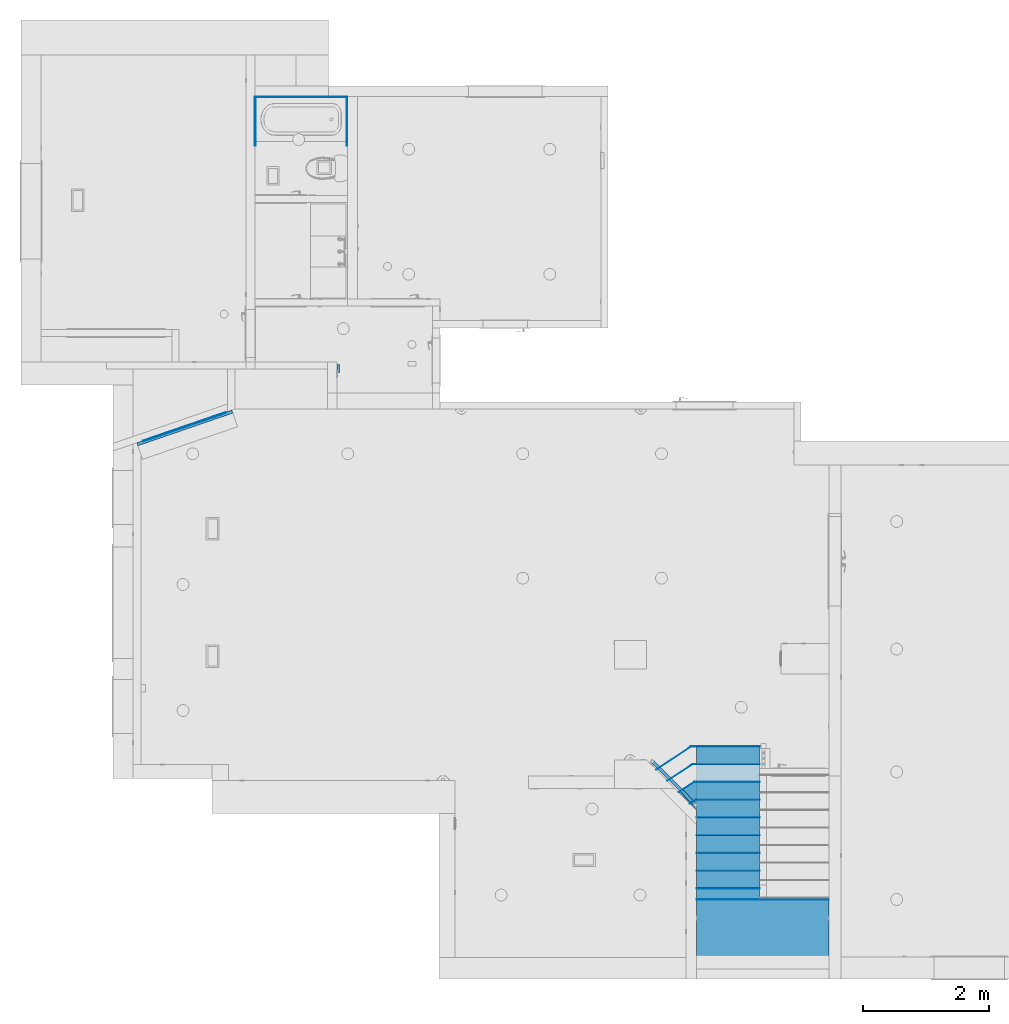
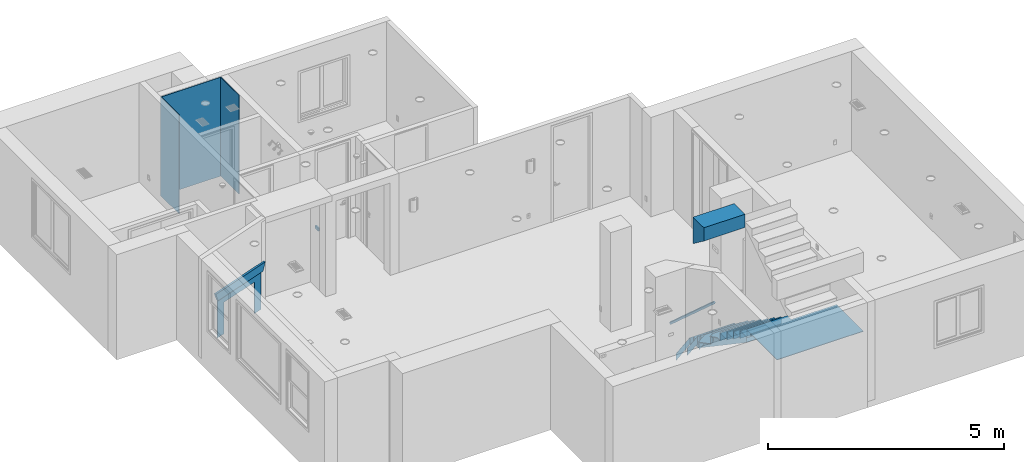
# One storey, part 1 of 48: 19 building element parts, 7 beams, 3 elements without a shape of their own.
"""IFC2X3 building model written with IfcOpenShell, lengths in inches."""

from ifc_helpers import new_model, entity, si_unit, converted_unit, derived_unit, money_unit, direction, frame, origin_with_axes, place, context, subcontext, project, spatial, faceted_brep, material, type_object, element, aggregate, save


model = new_model("IFC2X3")

# Units and contexts
model_context = context("Model", 3, precision=0.00039370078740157, world=origin_with_axes(), true_north=direction((0.0, 1.0)))
plan_context = context("Plan", 3, precision=0.00039370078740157, world=origin_with_axes(), true_north=direction((0.0, 1.0)))
body_context = subcontext(model_context, "Body", "Model", "MODEL_VIEW")
ifc_project = project(units=[converted_unit("LENGTHUNIT", "INCH", entity("IfcPositiveLengthMeasure", 0.0254), si_unit("LENGTHUNIT", "METRE"), dimensions=[1, 0, 0, 0, 0, 0, 0]), converted_unit("AREAUNIT", "SQUARE_FOOT", entity("IfcPositiveLengthMeasure", 0.09290304), si_unit("AREAUNIT", "SQUARE_METRE"), dimensions=[2, 0, 0, 0, 0, 0, 0]), si_unit("PLANEANGLEUNIT", "RADIAN"), si_unit("SOLIDANGLEUNIT", "STERADIAN"), money_unit("USD"), converted_unit("TIMEUNIT", "Year", entity("IfcTimeMeasure", 31557600.0), si_unit("TIMEUNIT", "SECOND"), dimensions=[0, 0, 1, 0, 0, 0, 0]), si_unit("MASSUNIT", "GRAM", prefix="KILO"), si_unit("THERMODYNAMICTEMPERATUREUNIT", "DEGREE_CELSIUS"), si_unit("LUMINOUSINTENSITYUNIT", "LUMEN"), si_unit("ENERGYUNIT", "JOULE", prefix="MEGA"), derived_unit("SPECIFICHEATCAPACITYUNIT", [(si_unit("ENERGYUNIT", "JOULE"), 1), (si_unit("MASSUNIT", "GRAM", prefix="KILO"), -1), (si_unit("THERMODYNAMICTEMPERATUREUNIT", "KELVIN"), -1)])], contexts=[model_context, plan_context])

# Site, building, storey
site_placement = place(None, origin_with_axes())
site = spatial("IfcSite", under=ifc_project, at=site_placement, Name="Site", CompositionType="ELEMENT")
building_placement = place(site_placement, origin_with_axes())
building = spatial("IfcBuilding", under=site, at=building_placement, Name="Building", CompositionType="ELEMENT")
storey_placement = place(building_placement, origin_with_axes())
storey = spatial("IfcBuildingStorey", under=building, at=storey_placement, Name="First Floor", CompositionType="ELEMENT", Elevation=0.0)

# Beams
ifc_material_1 = material(Name="Generic - Structural")
beam_type_1 = type_object("IfcBeamType", Name="Generic - Structural 1 1/2\" x 3\"", PredefinedType="BEAM")
beam_1_placement = place(storey_placement, frame((-63.99999999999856, 380.4937083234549, 50.49904259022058), z_axis=(0.0, 0.0, 1.0), x_axis=(1.0, 0.0, 0.0)))
element("IfcBeam", 1, at=beam_1_placement, inside=storey, type_object=beam_type_1, material=ifc_material_1, Name="BMR - 012", context=body_context, shape_type="Brep", body=[
    faceted_brep([(0.0, 0.0, 0.0), (0.0, 4.999999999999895, 0.0), (1.499999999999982, 4.999999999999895, 0.0), (1.499999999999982, 0.0, 0.0), (0.0, 0.0, 3.000026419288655), (0.0, 4.999999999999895, 3.000026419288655), (1.499999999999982, 4.999999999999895, 3.000026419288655), (1.499999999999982, 0.0, 3.000026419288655)], [[[0, 1, 2, 3]], [[4, 5, 1, 0]], [[2, 1, 5, 6]], [[3, 2, 6, 7]], [[4, 0, 3, 7]], [[7, 6, 5, 4]]]),
])
beam_type_2 = type_object("IfcBeamType", Name="Generic - Structural 1/2\" x 39\"", PredefinedType="BEAM")
beam_2_placement = place(storey_placement, frame((-133.6741574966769, 355.5495188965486, 10.99999999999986), z_axis=(0.0, 0.0, 1.0), x_axis=(-0.3250801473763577, 0.9456864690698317, 0.0)))
element("IfcBeam", 2, at=beam_2_placement, inside=storey, type_object=beam_type_2, material=ifc_material_1, Name="BMR - 113", context=body_context, shape_type="Brep", body=[
    faceted_brep([(-0.4999999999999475, 54.99999992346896, 0.0), (-0.4999999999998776, 46.99999946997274, 0.0), (-0.4999999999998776, 46.99999946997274, 31.99999999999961), (-0.4999999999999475, 7.999999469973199, 31.99999999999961), (-0.5000000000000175, 7.999999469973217, 0.0), (-0.4999999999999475, 0.0, 0.0), (-0.4999999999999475, 0.0, 38.99999999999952), (-0.4999999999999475, 54.99999992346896, 38.99999999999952), (0.0, 54.99999992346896, 0.0), (0.0, 46.99999946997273, 0.0), (0.0, 46.99999946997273, 31.99999999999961), (0.0, 7.999999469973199, 31.99999999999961), (0.0, 7.999999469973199, 0.0), (0.0, 0.0, 0.0), (0.0, 0.0, 38.99999999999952), (0.0, 54.99999992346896, 38.99999999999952)], [[[0, 1, 2, 3, 4, 5, 6, 7]], [[8, 9, 1, 0]], [[10, 2, 1, 9]], [[11, 3, 2, 10]], [[12, 4, 3, 11]], [[5, 4, 12, 13]], [[14, 6, 5, 13]], [[6, 14, 15, 7]], [[15, 8, 0, 7]], [[11, 10, 9, 8, 15, 14, 13, 12]]]),
])
beam_type_3 = type_object("IfcBeamType", Name="stairs floor 18\" x 27\"", PredefinedType="BEAM")
beam_3_placement = place(storey_placement, frame((161.4999999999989, 146.4999999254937, 100.9999999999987), z_axis=(0.0, 0.0, 1.0), x_axis=(0.0, -1.0, 0.0)))
element("IfcBeam", 3, at=beam_3_placement, inside=storey, type_object=beam_type_3, material=ifc_material_1, Name="BMR - 042", context=body_context, shape_type="Brep", body=[
    faceted_brep([(0.0, 0.0, 0.0), (0.0, 39.49660303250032, 0.0), (17.99999999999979, 39.49660303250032, 13.49999999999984), (17.99999999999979, 0.0, 13.49999999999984), (0.0, 0.0, 26.99999999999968), (0.0, 39.49660303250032, 26.99999999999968), (17.99999999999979, 39.49660303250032, 26.99999999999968), (17.99999999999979, 0.0, 26.99999999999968)], [[[0, 1, 2, 3]], [[4, 5, 1, 0]], [[2, 1, 5, 6]], [[3, 2, 6, 7]], [[4, 0, 3, 7]], [[7, 6, 5, 4]]]),
])
ifc_material_2 = material(Name="Tile - Walls")
beam_type_4 = type_object("IfcBeamType", Name="Tile - Walls 1/2\" x 100 1/2\"", PredefinedType="BEAM")
beam_4_placement = place(storey_placement, frame((-57.49977817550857, 522.5000000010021, 0.0), z_axis=(0.0, 0.0, 1.0), x_axis=(0.9999999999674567, -8.067623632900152e-06, 0.0)))
element("IfcBeam", 4, at=beam_4_placement, inside=storey, type_object=beam_type_4, material=ifc_material_2, Name="BMR - 005", context=body_context, shape_type="Brep", body=[
    faceted_brep([(0.0, 0.0, 0.0), (-0.5000000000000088, 0.0, 0.0), (-0.5, 30.49999596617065, 0.0), (0.0, 30.99999999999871, 0.0), (0.0, 0.0, 100.4999999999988), (-0.5000000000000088, 0.0, 100.4999999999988), (-0.5000000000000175, 30.49999596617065, 100.4999999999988), (0.0, 30.99999999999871, 100.4999999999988)], [[[0, 1, 2, 3]], [[4, 5, 1, 0]], [[1, 5, 6, 2]], [[7, 3, 2, 6]], [[4, 0, 3, 7]], [[5, 4, 7, 6]]]),
])
beam_5_placement = place(storey_placement, frame((-115.4999999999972, 553.499999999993, 0.0), z_axis=(0.0, 0.0, 1.0), x_axis=(-1.0, 0.0, 0.0)))
element("IfcBeam", 5, at=beam_5_placement, inside=storey, type_object=beam_type_4, material=ifc_material_2, Name="BMR - 007", context=body_context, shape_type="Brep", body=[
    faceted_brep([(0.0, 0.0, 0.0), (-0.4999999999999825, 0.4999999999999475, 0.0), (-0.4999999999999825, 30.99999999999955, 0.0), (0.0, 30.99999999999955, 0.0), (0.0, 0.0, 100.4999999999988), (-0.4999999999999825, 0.4999999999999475, 100.4999999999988), (-0.4999999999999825, 30.99999999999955, 100.4999999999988), (0.0, 30.99999999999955, 100.4999999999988)], [[[0, 1, 2, 3]], [[4, 5, 1, 0]], [[1, 5, 6, 2]], [[7, 3, 2, 6]], [[4, 0, 3, 7]], [[5, 4, 7, 6]]]),
])
beam_6_placement = place(storey_placement, frame((-57.49952807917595, 553.499999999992, 0.0), z_axis=(0.0, 0.0, 1.0), x_axis=(0.0, 1.0, 0.0)))
element("IfcBeam", 6, at=beam_6_placement, inside=storey, type_object=beam_type_4, material=ifc_material_2, Name="BMR - 006", context=body_context, shape_type="Brep", body=[
    faceted_brep([(0.0, 0.0, 0.0), (-0.5000000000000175, 0.5000040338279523, 0.0), (-0.5000000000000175, 57.50047192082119, 0.0), (0.0, 58.00047192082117, 0.0), (0.0, 0.0, 100.4999999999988), (-0.5000000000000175, 0.5000040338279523, 100.4999999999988), (-0.5000000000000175, 57.50047192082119, 100.4999999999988), (0.0, 58.00047192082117, 100.4999999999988)], [[[0, 1, 2, 3]], [[4, 5, 1, 0]], [[1, 5, 6, 2]], [[7, 3, 2, 6]], [[4, 0, 3, 7]], [[5, 4, 7, 6]]]),
])
beam_type_5 = type_object("IfcBeamType", Name="Generic - Structural 2\" x 8\"", PredefinedType="BEAM")
beam_7_placement = place(storey_placement, frame((-132.7284710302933, 355.8745990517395, 49.99999999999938), z_axis=(0.0, 0.0, 1.0), x_axis=(-0.3250801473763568, 0.945686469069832, 0.0)))
element("IfcBeam", 7, at=beam_7_placement, inside=storey, type_object=beam_type_5, material=ifc_material_1, Name="BMR - 113", context=body_context, shape_type="Brep", body=[
    faceted_brep([(-1.99999999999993, 0.0, 0.0), (-2.0, 56.99999999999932, 0.0), (0.0, 56.99999999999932, 0.0), (0.0, 0.0, 0.0), (-2.0, -3.000000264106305, 7.999999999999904), (-2.0, 59.99999973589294, 7.999999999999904), (0.0, 59.99999973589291, 7.999999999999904), (0.0, -3.000000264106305, 7.999999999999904)], [[[0, 1, 2, 3]], [[4, 5, 1, 0]], [[2, 1, 5, 6]], [[3, 2, 6, 7]], [[4, 0, 3, 7]], [[7, 6, 5, 4]]]),
])

# Proxy, building element part
building_element_proxy_type = type_object("IfcBuildingElementProxyType", Name="Railing Type", PredefinedType="NOTDEFINED")
proxy_placement = place(storey_placement, frame((161.4999999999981, 105.9237063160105, -3.290656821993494), z_axis=(0.0, 0.0, 1.0), x_axis=(-1.0, 0.0, 0.0)))
proxy = element("IfcBuildingElementProxy", 8, at=proxy_placement, inside=storey, type_object=building_element_proxy_type, Name="RAILING - 001")
ifc_material_3 = material(Name="Wood - Trim")
building_element_part_1_placement = place(proxy_placement, origin_with_axes())
building_element_part_1 = element("IfcBuildingElementPart", 9, at=building_element_part_1_placement, material=ifc_material_3, Name="Wood - Trim", context=body_context, shape_type="Brep", body=[
    faceted_brep([(0.4827819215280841, -4.680855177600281, 68.29777093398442), (-0.3565194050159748, -3.835709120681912, 66.6911280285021), (26.54020323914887, -30.9197352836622, 38.39335709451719), (27.37950456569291, -31.76488134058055, 39.99999999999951), (1.901894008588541, -3.2715571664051, 68.29777093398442), (1.062592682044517, -2.426411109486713, 66.6911280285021), (27.95931532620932, -29.51043727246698, 38.39335709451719), (28.79861665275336, -30.35558332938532, 39.99999999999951)], [[[0, 1, 2, 3]], [[0, 4, 5, 1]], [[1, 5, 6, 2]], [[3, 2, 6, 7]], [[4, 0, 3, 7]], [[5, 4, 7, 6]]]),
])
aggregate(proxy, [building_element_part_1])

# Stair, building element parts
stair_1_placement = place(storey_placement, frame((244.4999999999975, 69.49212598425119, 65.99999999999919), z_axis=(0.0, 0.0, 1.0), x_axis=(1.0, 0.0, 0.0)))
stair_1 = element("IfcStair", 10, at=stair_1_placement, inside=storey, Name="STAIR-01", ShapeType="NOTDEFINED")
building_element_part_2_placement = place(stair_1_placement, origin_with_axes())
building_element_part_2 = element("IfcBuildingElementPart", 11, at=building_element_part_2_placement, material=ifc_material_3, Name="Wood - Trim", context=body_context, shape_type="Brep", body=[
    faceted_brep([(-82.99999999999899, -19.49212598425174, 1.499999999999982), (-82.99999999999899, -19.61712598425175, 1.499999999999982), (0.0, -19.61712598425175, 1.499999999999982), (0.0, -19.49212598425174, 1.499999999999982), (-82.99999999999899, -19.49212598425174, 0.0), (-82.99999999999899, -19.61712598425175, 0.0), (0.0, -19.61712598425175, 0.0), (0.0, -19.49212598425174, 0.0)], [[[0, 1, 2, 3]], [[0, 4, 5, 1]], [[1, 5, 6, 2]], [[3, 2, 6, 7]], [[4, 0, 3, 7]], [[5, 4, 7, 6]]]),
])
building_element_part_3_placement = place(stair_1_placement, origin_with_axes())
building_element_part_3 = element("IfcBuildingElementPart", 12, at=building_element_part_3_placement, material=ifc_material_3, Name="Wood - Trim", context=body_context, shape_type="Brep", body=[
    faceted_brep([(-82.99999999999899, -18.99212647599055, 1.499999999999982), (-82.99999999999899, -62.99212598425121, 1.499999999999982), (-82.99999999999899, -62.99212598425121, 1.999999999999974), (-82.99999999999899, -18.99212647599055, 1.999999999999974), (-82.99999999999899, -12.49212577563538, 1.499999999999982), (-82.9999727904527, -11.99212562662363, 1.499999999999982), (-43.49998451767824, -11.99212562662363, 1.499999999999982), (-43.49998451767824, -18.23835525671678, 1.499999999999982), (0.0, -18.23833917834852, 1.499999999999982), (0.0, -18.99212647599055, 1.499999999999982), (0.0, -62.99212598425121, 1.499999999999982), (0.0, -62.99212598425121, 1.999999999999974), (0.0, -18.99212647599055, 1.999999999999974), (0.0, -18.23833917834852, 1.999999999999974), (-43.49998451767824, -18.23835525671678, 1.999999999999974), (-43.49998451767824, -11.99212562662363, 1.999999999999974), (-82.9999727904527, -11.99212562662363, 1.999999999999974), (-82.99999999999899, -12.49212577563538, 1.999999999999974)], [[[0, 1, 2, 3]], [[0, 4, 5, 6, 7, 8, 9, 10, 1]], [[1, 10, 11, 2]], [[3, 2, 11, 12, 13, 14, 15, 16, 17]], [[4, 0, 3, 17]], [[5, 4, 17, 16]], [[6, 5, 16, 15]], [[7, 6, 15, 14]], [[8, 7, 14, 13]], [[9, 8, 13, 12]], [[10, 9, 12, 11]]]),
])
aggregate(stair_1, [building_element_part_2, building_element_part_3])

stair_2_placement = place(storey_placement, frame((200.9849073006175, 146.4999999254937, 0.0), z_axis=(0.0, 0.0, 1.0), x_axis=(1.0, 0.0, 0.0)))
stair_2 = element("IfcStair", 13, at=stair_2_placement, inside=storey, Name="STAIR-01", ShapeType="NOTDEFINED")
building_element_part_4_placement = place(stair_2_placement, origin_with_axes())
building_element_part_4 = element("IfcBuildingElementPart", 14, at=building_element_part_4_placement, material=ifc_material_3, Name="Wood - Trim", context=body_context, shape_type="Brep", body=[
    faceted_brep([(-39.43544725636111, -89.02864479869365, 59.72222222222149), (-39.43544725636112, -89.02864479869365, 54.46697346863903), (0.06454235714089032, -88.99999960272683, 54.46697346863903), (0.06454235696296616, -88.99999960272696, 59.72222222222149), (-39.44082578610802, -81.61197816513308, 49.44845495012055), (-39.43813652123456, -85.32031148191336, 51.95771420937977), (-39.44305894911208, -78.53258169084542, 59.72222222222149), (-39.44305894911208, -78.53258169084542, 52.1944444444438), (-39.45112673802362, -67.40758174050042, 52.1944444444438), (-39.45112673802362, -67.40758174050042, 44.66666666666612), (-39.45919453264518, -56.28258179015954, 44.66666666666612), (-39.45919453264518, -56.28258179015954, 37.13888888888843), (-39.46726232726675, -45.15758183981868, 37.13888888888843), (-39.46726232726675, -45.15758183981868, 29.61111111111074), (-39.4753301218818, -34.03258188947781, 29.61111111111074), (-39.4753301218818, -34.03258188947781, 22.08333333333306), (-39.48339791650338, -22.90758193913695, 22.08333333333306), (-39.48339791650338, -22.90758193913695, 14.55555555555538), (-39.49146571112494, -11.78258198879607, 14.55555555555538), (-39.49146571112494, -11.78258198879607, 7.027777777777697), (-39.49953350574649, -0.6575820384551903, 7.027777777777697), (-39.49953350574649, -0.6575820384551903, 0.0), (-39.49382150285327, -8.534095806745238, 0.0), (-39.4919218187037, -11.15364514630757, 1.772529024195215), (-39.48923255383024, -14.86197846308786, 4.281788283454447), (-39.48654328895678, -18.57031177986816, 6.791047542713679), (-39.48385402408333, -22.27864509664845, 9.300306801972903), (-39.48116475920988, -25.98697841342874, 11.80956606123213), (-39.47847549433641, -29.69531173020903, 14.31882532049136), (-39.47578622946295, -33.40364504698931, 16.82808457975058), (-39.47309696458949, -37.1119783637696, 19.33734383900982), (-39.47040769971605, -40.82031168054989, 21.84660309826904), (-39.4677184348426, -44.52864499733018, 24.35586235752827), (-39.46502916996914, -48.23697831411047, 26.8651216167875), (-39.46233990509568, -51.94531163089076, 29.37438087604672), (-39.45965064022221, -55.65364494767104, 31.88364013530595), (-39.45696137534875, -59.36197826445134, 34.39289939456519), (-39.45427211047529, -63.07031158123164, 36.90215865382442), (-39.45158284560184, -66.77864489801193, 39.41141791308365), (-39.44889358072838, -70.48697821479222, 41.92067717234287), (-39.44620431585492, -74.19531153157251, 44.42993643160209), (-39.44351505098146, -77.9036448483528, 46.93919569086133), (0.06185309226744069, -85.29166628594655, 51.95771420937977), (0.006168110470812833, -8.505450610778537, 0.0), (0.00045609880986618, -0.6289368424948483, 0.0), (0.00045609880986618, -0.6289368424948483, 7.027777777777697), (0.008523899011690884, -11.75393679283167, 7.027777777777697), (0.008523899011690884, -11.75393679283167, 14.55555555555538), (0.01659169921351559, -22.87893674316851, 14.55555555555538), (0.01659169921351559, -22.87893674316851, 22.08333333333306), (0.02465949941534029, -34.00393669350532, 22.08333333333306), (0.02465949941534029, -34.00393669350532, 29.61111111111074), (0.03272726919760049, -45.1289366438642, 29.61111111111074), (0.03272726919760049, -45.1289366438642, 37.13888888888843), (0.0407950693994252, -56.253936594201, 37.13888888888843), (0.0407950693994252, -56.253936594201, 44.66666666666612), (0.0488628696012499, -67.37893654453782, 44.66666666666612), (0.0488628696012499, -67.37893654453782, 52.1944444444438), (0.05693066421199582, -78.50393649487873, 52.1944444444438), (0.05693066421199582, -78.50393649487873, 59.72222222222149), (0.05916382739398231, -81.58333296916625, 49.44845495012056), (0.05647456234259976, -77.8749996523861, 46.93919569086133), (0.05378529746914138, -74.1666663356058, 44.4299364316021), (0.051096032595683, -70.4583330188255, 41.92067717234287), (0.04840676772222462, -66.7499997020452, 39.41141791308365), (0.04571750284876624, -63.04166638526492, 36.90215865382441), (0.04302823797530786, -59.33333306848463, 34.39289939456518), (0.04033897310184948, -55.62499975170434, 31.88364013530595), (0.03764996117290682, -51.91666643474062, 29.37438087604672), (0.03496069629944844, -48.20833311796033, 26.86512161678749), (0.0322713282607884, -44.49999980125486, 24.35586235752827), (0.02958206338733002, -40.79166648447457, 21.84660309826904), (0.02689279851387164, -37.08333316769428, 19.33734383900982), (0.02420343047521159, -33.37499985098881, 16.82808457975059), (0.02151416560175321, -29.66666653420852, 14.31882532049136), (0.01882490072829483, -25.95833321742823, 11.80956606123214), (0.01613558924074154, -22.24999990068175, 9.300306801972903), (0.01344632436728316, -18.54166658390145, 6.79104754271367), (0.01075705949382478, -14.83333326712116, 4.281788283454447), (0.008067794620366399, -11.12499995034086, 1.772529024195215)], [[[0, 1, 2, 3]], [[4, 5, 1, 0, 6, 7, 8, 9, 10, 11, 12, 13, 14, 15, 16, 17, 18, 19, 20, 21, 22, 23, 24, 25, 26, 27, 28, 29, 30, 31, 32, 33, 34, 35, 36, 37, 38, 39, 40, 41]], [[42, 2, 1, 5]], [[43, 44, 45, 46, 47, 48, 49, 50, 51, 52, 53, 54, 55, 56, 57, 58, 59, 3, 2, 42, 60, 61, 62, 63, 64, 65, 66, 67, 68, 69, 70, 71, 72, 73, 74, 75, 76, 77, 78, 79]], [[0, 3, 59, 6]], [[4, 60, 42, 5]], [[58, 7, 6, 59]], [[57, 8, 7, 58]], [[56, 9, 8, 57]], [[55, 10, 9, 56]], [[54, 11, 10, 55]], [[53, 12, 11, 54]], [[52, 13, 12, 53]], [[51, 14, 13, 52]], [[50, 15, 14, 51]], [[49, 16, 15, 50]], [[48, 17, 16, 49]], [[47, 18, 17, 48]], [[46, 19, 18, 47]], [[45, 20, 19, 46]], [[44, 21, 20, 45]], [[21, 44, 43, 22]], [[22, 43, 79, 23]], [[23, 79, 78, 24]], [[24, 78, 77, 25]], [[25, 77, 76, 26]], [[26, 76, 75, 27]], [[27, 75, 74, 28]], [[28, 74, 73, 29]], [[29, 73, 72, 30]], [[30, 72, 71, 31]], [[31, 71, 70, 32]], [[32, 70, 69, 33]], [[33, 69, 68, 34]], [[34, 68, 67, 35]], [[35, 67, 66, 36]], [[36, 66, 65, 37]], [[37, 65, 64, 38]], [[38, 64, 63, 39]], [[39, 63, 62, 40]], [[40, 62, 61, 41]], [[41, 61, 60, 4]]]),
])
building_element_part_5_placement = place(stair_2_placement, origin_with_axes())
building_element_part_5 = element("IfcBuildingElementPart", 15, at=building_element_part_5_placement, material=ifc_material_3, Name="Wood - Trim", context=body_context, shape_type="Brep", body=[
    faceted_brep([(-64.74742388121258, -15.09335899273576, 7.027777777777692), (-64.67775782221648, -15.19714550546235, 7.027777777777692), (-42.94413658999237, -0.608585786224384, 7.027777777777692), (0.0004532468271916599, -0.6249999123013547, 7.027777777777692), (0.0003625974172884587, -0.4999998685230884, 7.027777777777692), (-42.98217772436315, -0.4835712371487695, 7.027777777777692), (-64.74742388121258, -15.09335899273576, 0.0), (-64.67775782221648, -15.19714550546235, 0.0), (-42.94413658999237, -0.608585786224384, 0.0), (0.0004532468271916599, -0.6249999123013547, 0.0), (0.0003625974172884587, -0.4999998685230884, 0.0), (-42.98217772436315, -0.4835712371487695, 0.0)], [[[0, 1, 2, 3, 4, 5]], [[0, 6, 7, 1]], [[1, 7, 8, 2]], [[2, 8, 9, 3]], [[4, 3, 9, 10]], [[11, 5, 4, 10]], [[6, 0, 5, 11]], [[7, 6, 11, 10, 9, 8]]]),
])
building_element_part_6_placement = place(stair_2_placement, origin_with_axes())
building_element_part_6 = element("IfcBuildingElementPart", 16, at=building_element_part_6_placement, material=ifc_material_3, Name="Wood - Trim", context=body_context, shape_type="Brep", body=[
    faceted_brep([(-57.823266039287, -22.08970499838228, 14.55555555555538), (-57.75429607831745, -22.1939553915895, 14.55555555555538), (-42.01397235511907, -11.78047416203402, 14.55555555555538), (0.008521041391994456, -11.74999978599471, 14.55555555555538), (0.008430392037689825, -11.62499981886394, 14.55555555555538), (-42.05161981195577, -11.65550143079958, 14.55555555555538), (-57.823266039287, -22.08970499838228, 7.027777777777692), (-57.75429607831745, -22.1939553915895, 7.027777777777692), (-42.01397235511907, -11.78047416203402, 7.027777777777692), (0.008521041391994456, -11.74999978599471, 7.027777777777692), (0.008430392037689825, -11.62499981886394, 7.027777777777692), (-42.05161981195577, -11.65550143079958, 7.027777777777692)], [[[0, 1, 2, 3, 4, 5]], [[0, 6, 7, 1]], [[1, 7, 8, 2]], [[2, 8, 9, 3]], [[4, 3, 9, 10]], [[11, 5, 4, 10]], [[6, 0, 5, 11]], [[7, 6, 11, 10, 9, 8]]]),
])
building_element_part_7_placement = place(stair_2_placement, origin_with_axes())
building_element_part_7 = element("IfcBuildingElementPart", 17, at=building_element_part_7_placement, material=ifc_material_3, Name="Wood - Trim", context=body_context, shape_type="Brep", body=[
    faceted_brep([(-50.72250034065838, -29.21831018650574, 22.08333333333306), (-50.65356637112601, -29.32258438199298, 22.08333333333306), (-40.94544724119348, -22.90470520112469, 22.08333333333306), (0.01658883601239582, -22.87499973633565, 22.08333333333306), (0.01649818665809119, -22.74999976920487, 22.08333333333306), (-40.98307117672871, -22.77973245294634, 22.08333333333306), (-50.72250034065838, -29.21831018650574, 14.55555555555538), (-50.65356637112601, -29.32258438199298, 14.55555555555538), (-40.94544724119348, -22.90470520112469, 14.55555555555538), (0.01658883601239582, -22.87499973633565, 14.55555555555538), (0.01649818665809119, -22.74999976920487, 14.55555555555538), (-40.98307117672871, -22.77973245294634, 14.55555555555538)], [[[0, 1, 2, 3, 4, 5]], [[0, 6, 7, 1]], [[1, 7, 8, 2]], [[2, 8, 9, 3]], [[4, 3, 9, 10]], [[11, 5, 4, 10]], [[6, 0, 5, 11]], [[7, 6, 11, 10, 9, 8]]]),
])
building_element_part_8_placement = place(stair_2_placement, origin_with_axes())
building_element_part_8 = element("IfcBuildingElementPart", 18, at=building_element_part_8_placement, material=ifc_material_3, Name="Wood - Trim", context=body_context, shape_type="Brep", body=[
    faceted_brep([(-43.67122497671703, -36.29723146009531, 29.61111111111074), (-43.60229100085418, -36.40150565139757, 29.61111111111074), (-40.01203930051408, -34.02804850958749, 29.61111111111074), (0.02465663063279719, -33.99999968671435, 29.61111111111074), (0.02456598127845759, -33.8749997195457, 29.61111111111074), (-40.04966184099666, -33.90307483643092, 29.61111111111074), (-43.67122497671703, -36.29723146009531, 22.08333333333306), (-43.60229100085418, -36.40150565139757, 22.08333333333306), (-40.01203930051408, -34.02804850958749, 22.08333333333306), (0.02465663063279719, -33.99999968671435, 22.08333333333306), (0.02456598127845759, -33.8749997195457, 22.08333333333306), (-40.04966184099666, -33.90307483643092, 22.08333333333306)], [[[0, 1, 2, 3, 4, 5]], [[0, 6, 7, 1]], [[1, 7, 8, 2]], [[2, 8, 9, 3]], [[4, 3, 9, 10]], [[11, 5, 4, 10]], [[6, 0, 5, 11]], [[7, 6, 11, 10, 9, 8]]]),
])
building_element_part_9_placement = place(stair_2_placement, origin_with_axes())
building_element_part_9 = element("IfcBuildingElementPart", 19, at=building_element_part_9_placement, material=ifc_material_3, Name="Wood - Trim", context=body_context, shape_type="Brep", body=[
    faceted_brep([(-39.46735583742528, -45.02864486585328, 37.13888888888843), (-39.46726518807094, -45.15364483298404, 37.13888888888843), (0.03272442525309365, -45.12499963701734, 37.13888888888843), (0.03263377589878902, -44.99999966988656, 37.13888888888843), (-39.46735583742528, -45.02864486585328, 29.61111111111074), (-39.46726518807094, -45.15364483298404, 29.61111111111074), (0.03272442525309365, -45.12499963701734, 29.61111111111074), (0.03263377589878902, -44.99999966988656, 29.61111111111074)], [[[0, 1, 2, 3]], [[0, 4, 5, 1]], [[1, 5, 6, 2]], [[3, 2, 6, 7]], [[4, 0, 3, 7]], [[5, 4, 7, 6]]]),
])
building_element_part_10_placement = place(stair_2_placement, origin_with_axes())
building_element_part_10 = element("IfcBuildingElementPart", 20, at=building_element_part_10_placement, material=ifc_material_3, Name="Wood - Trim", context=body_context, shape_type="Brep", body=[
    faceted_brep([(-39.45928804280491, -56.15364481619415, 44.66666666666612), (-39.45919739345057, -56.27864478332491, 44.66666666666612), (0.04079221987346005, -56.24999958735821, 44.66666666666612), (0.04070157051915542, -56.12499962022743, 44.66666666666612), (-39.45928804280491, -56.15364481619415, 37.13888888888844), (-39.45919739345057, -56.27864478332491, 37.13888888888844), (0.04079221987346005, -56.24999958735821, 37.13888888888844), (0.04070157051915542, -56.12499962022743, 37.13888888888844)], [[[0, 1, 2, 3]], [[0, 4, 5, 1]], [[1, 5, 6, 2]], [[3, 2, 6, 7]], [[4, 0, 3, 7]], [[5, 4, 7, 6]]]),
])
building_element_part_11_placement = place(stair_2_placement, origin_with_axes())
building_element_part_11 = element("IfcBuildingElementPart", 21, at=building_element_part_11_placement, material=ifc_material_3, Name="Wood - Trim", context=body_context, shape_type="Brep", body=[
    faceted_brep([(-39.45122024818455, -67.27864476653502, 52.1944444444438), (-39.45112959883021, -67.4036447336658, 52.1944444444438), (0.04886001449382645, -67.3749995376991, 52.1944444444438), (0.04876936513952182, -67.24999957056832, 52.1944444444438), (-39.45122024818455, -67.27864476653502, 44.66666666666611), (-39.45112959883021, -67.4036447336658, 44.66666666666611), (0.04886001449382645, -67.3749995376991, 44.66666666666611), (0.04876936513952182, -67.24999957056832, 44.66666666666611)], [[[0, 1, 2, 3]], [[0, 4, 5, 1]], [[1, 5, 6, 2]], [[3, 2, 6, 7]], [[4, 0, 3, 7]], [[5, 4, 7, 6]]]),
])
building_element_part_12_placement = place(stair_2_placement, origin_with_axes())
building_element_part_12 = element("IfcBuildingElementPart", 22, at=building_element_part_12_placement, material=ifc_material_3, Name="Wood - Trim", context=body_context, shape_type="Brep", body=[
    faceted_brep([(-39.44315245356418, -78.40364471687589, 59.72222222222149), (-39.44306180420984, -78.52864468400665, 59.72222222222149), (0.05692780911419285, -78.49999948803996, 59.72222222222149), (0.05683715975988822, -78.37499952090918, 59.72222222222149), (-39.44315245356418, -78.40364471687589, 52.19444444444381), (-39.44306180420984, -78.52864468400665, 52.19444444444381), (0.05692780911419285, -78.49999948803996, 52.19444444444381), (0.05683715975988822, -78.37499952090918, 52.19444444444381)], [[[0, 1, 2, 3]], [[0, 4, 5, 1]], [[1, 5, 6, 2]], [[3, 2, 6, 7]], [[4, 0, 3, 7]], [[5, 4, 7, 6]]]),
])
building_element_part_13_placement = place(stair_2_placement, origin_with_axes())
building_element_part_13 = element("IfcBuildingElementPart", 23, at=building_element_part_13_placement, material=ifc_material_3, Name="Wood - Trim", context=body_context, shape_type="Brep", body=[
    faceted_brep([(-39.43508465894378, -89.52864466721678, 67.74999999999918), (-39.43499400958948, -89.65364463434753, 67.74999999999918), (0.06499560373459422, -89.6249994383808, 67.74999999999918), (0.06490495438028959, -89.49999947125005, 67.74999999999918), (-39.43508465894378, -89.52864466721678, 59.72222222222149), (-39.43499400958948, -89.65364463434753, 59.72222222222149), (0.06499560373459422, -89.6249994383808, 59.72222222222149), (0.06490495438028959, -89.49999947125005, 59.72222222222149)], [[[0, 1, 2, 3]], [[0, 4, 5, 1]], [[1, 5, 6, 2]], [[3, 2, 6, 7]], [[4, 0, 3, 7]], [[5, 4, 7, 6]]]),
])
building_element_part_14_placement = place(stair_2_placement, origin_with_axes())
building_element_part_14 = element("IfcBuildingElementPart", 24, at=building_element_part_14_placement, material=ifc_material_3, Name="Wood - Trim", context=body_context, shape_type="Brep", body=[
    faceted_brep([(0.0161355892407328, -22.24999990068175, 22.08333333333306), (-41.08164749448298, -22.24999990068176, 22.08333333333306), (-41.08164749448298, -22.24999990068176, 22.58333333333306), (0.0161355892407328, -22.24999990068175, 22.58333333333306), (0.0245659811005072, -33.87499947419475, 22.08333333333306), (-40.04966183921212, -33.9030748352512, 22.08333333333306), (-43.67122497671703, -36.29723146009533, 22.08333333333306), (-51.07979680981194, -28.85961288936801, 22.08333333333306), (-51.07979680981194, -28.85961288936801, 22.58333333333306), (-43.67122497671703, -36.29723146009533, 22.58333333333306), (-40.04966183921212, -33.9030748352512, 22.58333333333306), (0.0245659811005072, -33.87499947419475, 22.58333333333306)], [[[0, 1, 2, 3]], [[0, 4, 5, 6, 7, 1]], [[1, 7, 8, 2]], [[3, 2, 8, 9, 10, 11]], [[4, 0, 3, 11]], [[5, 4, 11, 10]], [[6, 5, 10, 9]], [[7, 6, 9, 8]]]),
])
building_element_part_15_placement = place(stair_2_placement, origin_with_axes())
building_element_part_15 = element("IfcBuildingElementPart", 25, at=building_element_part_15_placement, material=ifc_material_3, Name="Wood - Trim", context=body_context, shape_type="Brep", body=[
    faceted_brep([(-43.99397038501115, -35.97322010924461, 29.61111111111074), (-39.48487468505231, -40.49999499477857, 29.61111111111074), (-39.48487468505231, -40.49999499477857, 30.11111111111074), (-43.99397038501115, -35.97322010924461, 30.11111111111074), (-40.10583606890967, -33.40283788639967, 29.61111111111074), (-39.47578645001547, -33.40364482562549, 29.61111111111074), (0.02420355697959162, -33.37499979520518, 29.61111111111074), (0.0326337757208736, -44.99999917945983, 29.61111111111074), (-39.46735557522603, -45.02864486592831, 29.61111111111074), (-39.47071716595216, -40.39344293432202, 29.61111111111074), (-39.47071716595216, -40.39344293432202, 30.11111111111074), (-39.46735557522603, -45.02864486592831, 30.11111111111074), (0.0326337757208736, -44.99999917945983, 30.11111111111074), (0.02420355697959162, -33.37499979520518, 30.11111111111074), (-39.47578645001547, -33.40364482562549, 30.11111111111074), (-40.10583606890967, -33.40283788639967, 30.11111111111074)], [[[0, 1, 2, 3]], [[0, 4, 5, 6, 7, 8, 9, 1]], [[1, 9, 10, 2]], [[3, 2, 10, 11, 12, 13, 14, 15]], [[4, 0, 3, 15]], [[5, 4, 15, 14]], [[6, 5, 14, 13]], [[7, 6, 13, 12]], [[8, 7, 12, 11]], [[9, 8, 11, 10]]]),
])
building_element_part_16_placement = place(stair_2_placement, origin_with_axes())
building_element_part_16 = element("IfcBuildingElementPart", 26, at=building_element_part_16_placement, material=ifc_material_3, Name="Wood - Trim", context=body_context, shape_type="Brep", body=[
    faceted_brep([(0.03227117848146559, -44.49999980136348, 37.13888888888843), (-39.46771843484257, -44.52864499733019, 37.13888888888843), (-39.46771843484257, -44.52864499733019, 37.63888888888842), (0.03227117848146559, -44.49999980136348, 37.63888888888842), (0.04070157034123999, -56.12499937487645, 37.13888888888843), (-39.45928804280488, -56.15364481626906, 37.13888888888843), (-39.45928804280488, -56.15364481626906, 37.63888888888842), (0.04070157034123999, -56.12499937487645, 37.63888888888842)], [[[0, 1, 2, 3]], [[0, 4, 5, 1]], [[1, 5, 6, 2]], [[3, 2, 6, 7]], [[4, 0, 3, 7]], [[5, 4, 7, 6]]]),
])
building_element_part_17_placement = place(stair_2_placement, origin_with_axes())
building_element_part_17 = element("IfcBuildingElementPart", 27, at=building_element_part_17_placement, material=ifc_material_3, Name="Wood - Trim", context=body_context, shape_type="Brep", body=[
    faceted_brep([(0.04033897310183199, -55.62499975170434, 44.66666666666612), (-39.45965064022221, -55.65364494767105, 44.66666666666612), (-39.45965064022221, -55.65364494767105, 45.16666666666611), (0.04033897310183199, -55.62499975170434, 45.16666666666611), (0.04876936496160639, -67.24999932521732, 44.66666666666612), (-39.45122024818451, -67.27864476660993, 44.66666666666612), (-39.45122024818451, -67.27864476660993, 45.16666666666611), (0.04876936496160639, -67.24999932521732, 45.16666666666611)], [[[0, 1, 2, 3]], [[0, 4, 5, 1]], [[1, 5, 6, 2]], [[3, 2, 6, 7]], [[4, 0, 3, 7]], [[5, 4, 7, 6]]]),
])
building_element_part_18_placement = place(stair_2_placement, origin_with_axes())
building_element_part_18 = element("IfcBuildingElementPart", 28, at=building_element_part_18_placement, material=ifc_material_3, Name="Wood - Trim", context=body_context, shape_type="Brep", body=[
    faceted_brep([(0.04840676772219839, -66.74999970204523, 52.1944444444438), (-39.45158284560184, -66.77864489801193, 52.1944444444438), (-39.45158284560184, -66.77864489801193, 52.6944444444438), (0.04840676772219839, -66.74999970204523, 52.6944444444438), (0.05683715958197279, -78.3749992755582, 52.1944444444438), (-39.44315245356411, -78.40364471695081, 52.1944444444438), (-39.44315245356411, -78.40364471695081, 52.6944444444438), (0.05683715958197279, -78.3749992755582, 52.6944444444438)], [[[0, 1, 2, 3]], [[0, 4, 5, 1]], [[1, 5, 6, 2]], [[3, 2, 6, 7]], [[4, 0, 3, 7]], [[5, 4, 7, 6]]]),
])
building_element_part_19_placement = place(stair_2_placement, origin_with_axes())
building_element_part_19 = element("IfcBuildingElementPart", 29, at=building_element_part_19_placement, material=ifc_material_3, Name="Wood - Trim", context=body_context, shape_type="Brep", body=[
    faceted_brep([(0.05647456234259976, -77.8749996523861, 59.72222222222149), (-39.44351505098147, -77.90364484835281, 59.72222222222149), (-39.44351505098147, -77.90364484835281, 60.22222222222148), (0.05647456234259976, -77.8749996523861, 60.22222222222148), (0.06454235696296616, -88.99999960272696, 59.72222222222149), (0.06490495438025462, -89.49999947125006, 59.72222222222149), (-39.43508465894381, -89.52864466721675, 59.72222222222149), (-39.43544725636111, -89.02864479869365, 59.72222222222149), (-39.43544725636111, -89.02864479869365, 60.22222222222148), (-39.43508465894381, -89.52864466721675, 60.22222222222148), (0.06490495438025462, -89.49999947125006, 60.22222222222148), (0.06454235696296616, -88.99999960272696, 60.22222222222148)], [[[0, 1, 2, 3]], [[0, 4, 5, 6, 7, 1]], [[1, 7, 8, 2]], [[3, 2, 8, 9, 10, 11]], [[4, 0, 3, 11]], [[5, 4, 11, 10]], [[6, 5, 10, 9]], [[7, 6, 9, 8]]]),
])
aggregate(stair_2, [building_element_part_4, building_element_part_5, building_element_part_6, building_element_part_7, building_element_part_8, building_element_part_9, building_element_part_10, building_element_part_11, building_element_part_12, building_element_part_13, building_element_part_14, building_element_part_15, building_element_part_16, building_element_part_17, building_element_part_18, building_element_part_19])

save(model, "model.ifc")
